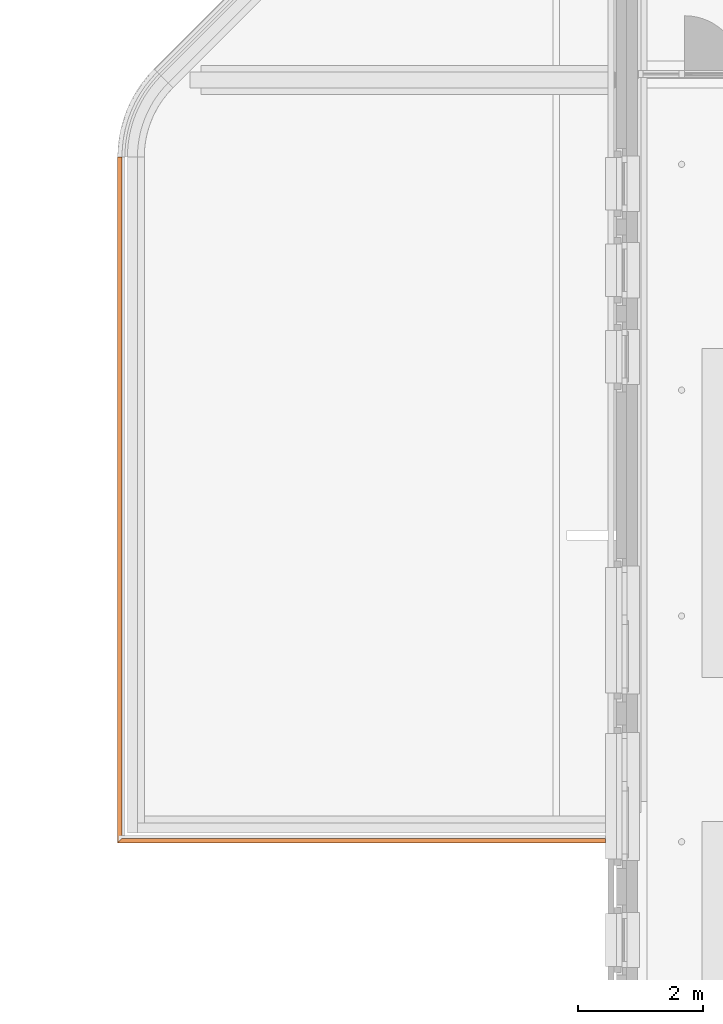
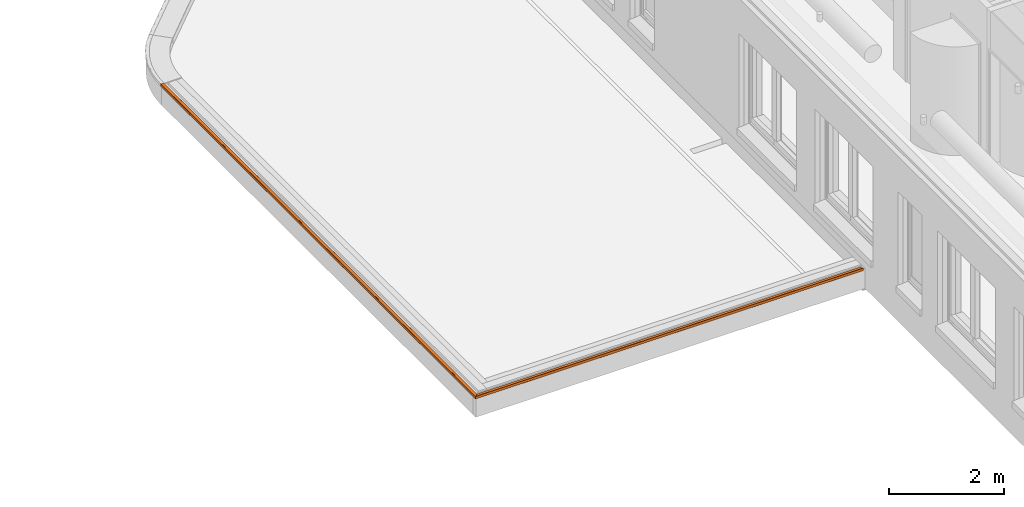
# One storey, part 126 of 128: 2 proxies.
"""IFC2X3 building model written with IfcOpenShell, lengths in millimetres."""

from ifc_helpers import new_model, entity, si_unit, converted_unit, derived_unit, direction, frame, origin, place, context, subcontext, project, spatial, faceted_brep, source, transform, mapped, material, type_object, type_shapes, element, save


model = new_model("IFC2X3")

# Units and contexts
model_context = context("Model", 3, precision=0.01, world=origin(), true_north=direction((6.123031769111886e-17, 1.0)))
body_context = subcontext(model_context, "Body", "Model", "MODEL_VIEW")
ifc_project = project(units=[si_unit("LENGTHUNIT", "METRE", prefix="MILLI"), si_unit("AREAUNIT", "SQUARE_METRE"), si_unit("VOLUMEUNIT", "CUBIC_METRE"), converted_unit("PLANEANGLEUNIT", "DEGREE", entity("IfcRatioMeasure", 0.017453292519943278), si_unit("PLANEANGLEUNIT", "RADIAN"), dimensions=[0, 0, 0, 0, 0, 0, 0]), si_unit("MASSUNIT", "GRAM", prefix="KILO"), derived_unit("MASSDENSITYUNIT", [(si_unit("MASSUNIT", "GRAM", prefix="KILO"), 1), (si_unit("LENGTHUNIT", "METRE"), -3)]), derived_unit("IONCONCENTRATIONUNIT", [(si_unit("MASSUNIT", "GRAM", prefix="KILO"), 1), (si_unit("LENGTHUNIT", "METRE"), -3)]), derived_unit("MOMENTOFINERTIAUNIT", [(si_unit("LENGTHUNIT", "METRE"), 4)]), si_unit("TIMEUNIT", "SECOND"), si_unit("FREQUENCYUNIT", "HERTZ"), si_unit("THERMODYNAMICTEMPERATUREUNIT", "DEGREE_CELSIUS"), derived_unit("THERMALTRANSMITTANCEUNIT", [(si_unit("MASSUNIT", "GRAM", prefix="KILO"), 1), (si_unit("THERMODYNAMICTEMPERATUREUNIT", "KELVIN"), -1), (si_unit("TIMEUNIT", "SECOND"), -3)]), derived_unit("THERMALCONDUCTANCEUNIT", [(si_unit("MASSUNIT", "GRAM", prefix="KILO"), 1), (si_unit("THERMODYNAMICTEMPERATUREUNIT", "KELVIN"), -1), (si_unit("TIMEUNIT", "SECOND"), -3), (si_unit("LENGTHUNIT", "METRE"), 1)]), derived_unit("VOLUMETRICFLOWRATEUNIT", [(si_unit("LENGTHUNIT", "METRE"), 3), (si_unit("TIMEUNIT", "SECOND"), -1)]), derived_unit("MASSFLOWRATEUNIT", [(si_unit("MASSUNIT", "GRAM", prefix="KILO"), 1), (si_unit("TIMEUNIT", "SECOND"), -1)]), derived_unit("ROTATIONALFREQUENCYUNIT", [(si_unit("TIMEUNIT", "SECOND"), -1)]), si_unit("ELECTRICCURRENTUNIT", "AMPERE"), si_unit("ELECTRICVOLTAGEUNIT", "VOLT"), si_unit("POWERUNIT", "WATT"), si_unit("FORCEUNIT", "NEWTON", prefix="KILO"), si_unit("ILLUMINANCEUNIT", "LUX"), si_unit("LUMINOUSFLUXUNIT", "LUMEN"), si_unit("LUMINOUSINTENSITYUNIT", "CANDELA"), derived_unit("USERDEFINED", [(si_unit("MASSUNIT", "GRAM", prefix="KILO"), -1), (si_unit("LENGTHUNIT", "METRE"), -2), (si_unit("TIMEUNIT", "SECOND"), 3), (si_unit("LUMINOUSFLUXUNIT", "LUMEN"), 1)]), derived_unit("USERDEFINED", [(si_unit("MASSUNIT", "GRAM", prefix="KILO"), 1), (si_unit("TIMEUNIT", "SECOND"), -3), (si_unit("LENGTHUNIT", "METRE"), 3), (si_unit("ELECTRICCURRENTUNIT", "AMPERE"), -2)]), derived_unit("SOUNDPOWERUNIT", [(si_unit("MASSUNIT", "GRAM", prefix="KILO"), 1), (si_unit("TIMEUNIT", "SECOND"), -3), (si_unit("LENGTHUNIT", "METRE"), 2)]), derived_unit("SOUNDPRESSUREUNIT", [(si_unit("MASSUNIT", "GRAM", prefix="KILO"), 1), (si_unit("LENGTHUNIT", "METRE"), -1), (si_unit("TIMEUNIT", "SECOND"), -2)]), derived_unit("LINEARVELOCITYUNIT", [(si_unit("LENGTHUNIT", "METRE"), 1), (si_unit("TIMEUNIT", "SECOND"), -1)]), si_unit("PRESSUREUNIT", "PASCAL"), derived_unit("USERDEFINED", [(si_unit("MASSUNIT", "GRAM", prefix="KILO"), 1), (si_unit("LENGTHUNIT", "METRE"), -2), (si_unit("TIMEUNIT", "SECOND"), -2)]), derived_unit("LINEARFORCEUNIT", [(si_unit("MASSUNIT", "GRAM", prefix="KILO"), 1), (si_unit("TIMEUNIT", "SECOND"), -2)]), derived_unit("PLANARFORCEUNIT", [(si_unit("MASSUNIT", "GRAM", prefix="KILO"), 1), (si_unit("LENGTHUNIT", "METRE"), -1), (si_unit("TIMEUNIT", "SECOND"), -2)]), derived_unit("SPECIFICHEATCAPACITYUNIT", [(si_unit("THERMODYNAMICTEMPERATUREUNIT", "KELVIN"), -1), (si_unit("LENGTHUNIT", "METRE"), 2), (si_unit("TIMEUNIT", "SECOND"), -2)]), derived_unit("HEATINGVALUEUNIT", [(si_unit("LENGTHUNIT", "METRE"), 2), (si_unit("TIMEUNIT", "SECOND"), -2)]), derived_unit("VAPORPERMEABILITYUNIT", [(si_unit("LENGTHUNIT", "METRE"), -1), (si_unit("TIMEUNIT", "SECOND"), 1)]), derived_unit("DYNAMICVISCOSITYUNIT", [(si_unit("MASSUNIT", "GRAM", prefix="KILO"), 1), (si_unit("TIMEUNIT", "SECOND"), -1), (si_unit("LENGTHUNIT", "METRE"), -1)]), derived_unit("THERMALEXPANSIONCOEFFICIENTUNIT", [(si_unit("THERMODYNAMICTEMPERATUREUNIT", "KELVIN"), -1)]), derived_unit("MODULUSOFELASTICITYUNIT", [(si_unit("MASSUNIT", "GRAM", prefix="KILO"), 1), (si_unit("LENGTHUNIT", "METRE"), -1), (si_unit("TIMEUNIT", "SECOND"), -2)]), derived_unit("ISOTHERMALMOISTURECAPACITYUNIT", [(si_unit("LENGTHUNIT", "METRE"), 3), (si_unit("MASSUNIT", "GRAM", prefix="KILO"), -1)]), derived_unit("MOISTUREDIFFUSIVITYUNIT", [(si_unit("TIMEUNIT", "SECOND"), -1), (si_unit("LENGTHUNIT", "METRE"), 2)])], contexts=[model_context])

# Site, building, storey
site_placement = place(None, frame((0.0, 300.0, 0.0)))
site = spatial("IfcSite", under=ifc_project, at=site_placement, Name="<Kadastrale nummers>", CompositionType="ELEMENT")
building_placement = place(site_placement, origin())
building = spatial("IfcBuilding", under=site, at=building_placement, CompositionType="ELEMENT")
storey_placement = place(building_placement, frame((0.0, 0.0, 3560.0000331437)))
storey = spatial("IfcBuildingStorey", under=building, at=storey_placement, Name="01 eerste verdieping", CompositionType="ELEMENT", Elevation=3560.0000331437)

# Proxies
ifc_material = material(Name="STAAL_RAL 7006")
building_element_proxy_type_1 = type_object("IfcBuildingElementProxyType", Name="NLRS_42_GM_WPB_dakrand_gen_ISR:dakrand_gen", PredefinedType="NOTDEFINED", material=ifc_material)
shared_shape_1 = source(origin(), body_context, "Body", "Brep", [
    faceted_brep([(3888.4815416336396, 1.0, 14.0), (3888.4815416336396, 0.29289321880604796, 13.707106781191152), (3888.4815416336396, 0.0, 13.0), (3888.4815416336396, 0.0, -39.696774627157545), (3888.4815416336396, 0.49999999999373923, -40.562800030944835), (3888.4815416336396, 1.2588190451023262, -40.66270045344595), (3888.4815416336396, 11.252085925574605, -37.98501266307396), (3888.4815416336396, 11.959192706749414, -36.76026779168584), (3888.4815416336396, 10.734447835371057, -36.05316101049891), (3888.4815416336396, 3.2588190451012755, -38.056249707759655), (3888.4815416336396, 2.292893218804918, -37.797430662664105), (3888.4815416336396, 2.0, -37.0903238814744), (3888.4815416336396, 2.0, -28.0), (3888.4815416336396, 2.292893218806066, -27.29289321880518), (3888.4815416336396, 3.0, -27.0), (3888.4815416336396, 6.0, -27.0), (3888.4815416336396, 6.707106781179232, -26.70710678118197), (3888.4815416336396, 7.0, -26.0), (3888.4815416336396, 7.0, -23.0), (3888.4815416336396, 6.0, -22.0), (3888.4815416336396, 5.0, -23.0), (3888.4815416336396, 5.0, -24.0), (3888.4815416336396, 4.7071067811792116, -24.707106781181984), (3888.4815416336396, 4.0, -25.0), (3888.4815416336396, 3.0, -25.0), (3888.4815416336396, 2.2928932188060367, -24.7071067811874), (3888.4815416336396, 2.0, -24.0), (3888.4815416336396, 2.0, -1.0), (3888.4815416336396, 2.292893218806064, -0.29289321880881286), (3888.4815416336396, 3.0, 0.0), (3888.4815416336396, 4.0, 0.0), (3888.4815416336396, 4.707106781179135, -0.2928932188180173), (3888.4815416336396, 5.0, -1.0), (3888.4815416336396, 5.0, -2.0), (3888.4815416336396, 6.0, -3.0), (3888.4815416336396, 7.0, -2.0), (3888.4815416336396, 7.0, -1.0), (3888.4815416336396, 7.292893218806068, -0.29289321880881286), (3888.4815416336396, 8.0, 0.0), (3888.4815416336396, 70.0, 0.0), (3888.4815416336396, 70.49999999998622, 0.4999999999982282), (3888.4815416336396, 70.0, 1.0), (3888.4815416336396, 65.49999999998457, 2.0), (3888.4815416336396, 3.0, 2.0), (3888.4815416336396, 2.2928932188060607, 2.2928932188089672), (3888.4815416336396, 2.0, 3.0), (3888.4815416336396, 2.0, 11.0), (3888.4815416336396, 2.292893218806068, 11.707106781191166), (3888.4815416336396, 3.0, 12.0), (3888.4815416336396, 11.0, 12.0), (3888.4815416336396, 12.0, 13.0), (3888.4815416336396, 11.0, 14.0), (-3886.2633731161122, 2.2181685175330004, 2.376510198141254), (-3886.4815416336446, 2.0, 3.0), (-3885.4815416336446, 3.0, 2.0), (-3886.1050314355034, 2.3765101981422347, 11.781831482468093), (-3885.4815416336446, 3.0, 12.0), (-3886.481541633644, 2.0, 11.0), (-3877.4815416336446, 11.0, 14.0), (-3876.481541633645, 12.0, 13.0), (-3877.481541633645, 11.0, 12.0), (-3888.4815416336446, 0.0, 13.0), (-3888.2633731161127, 0.21816851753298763, 13.62348980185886), (-3887.4815416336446, 1.0, 14.0), (-3887.222722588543, 1.2588190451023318, -40.662700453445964), (-3888.00651821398, 0.47502341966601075, -40.54789129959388), (-3888.4815416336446, 0.0, -39.69677462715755), (-3877.7470937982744, 10.734447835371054, -36.05316101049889), (-3876.5223489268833, 11.959192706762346, -36.760267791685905), (-3877.2294557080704, 11.252085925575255, -37.985012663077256), (-3886.4815416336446, 2.0, -37.090323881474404), (-3886.167783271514, 2.3137583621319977, -37.81769752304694), (-3885.222722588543, 3.258819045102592, -38.056249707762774), (-3886.1050314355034, 2.376510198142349, -27.21816851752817), (-3885.4815416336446, 3.0, -27.0), (-3886.4815416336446, 2.0, -28.0), (-3822.9815416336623, 65.49999999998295, 2.0), (-3818.4815416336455, 70.0, 1.0), (-3817.9815416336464, 70.49999999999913, 0.49999999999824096), (-3818.4815416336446, 70.0, 0.0), (-3880.4815416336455, 8.0, 0.0), (-3885.481541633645, 3.0, 0.0), (-3884.4815416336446, 4.0, 0.0), (-3881.1050314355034, 7.376510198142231, -0.21816851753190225), (-3881.481541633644, 7.0, -1.0), (-3881.481541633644, 7.0, -2.0), (-3881.481541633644, 7.0, -26.0), (-3881.4815416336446, 7.0, -23.0), (-3882.377013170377, 6.1045284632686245, -2.994521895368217), (-3883.481541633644, 5.0, -2.0), (-3883.481541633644, 5.0, -1.0), (-3883.481541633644, 5.0, -23.0), (-3883.481541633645, 5.0, -24.0), (-3883.6997101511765, 4.781831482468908, -0.3765101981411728), (-3886.105031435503, 2.3765101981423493, -0.21816851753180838), (-3886.481541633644, 2.0, -1.0), (-3886.4815416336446, 2.0, -24.0), (-3886.2633731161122, 2.218168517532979, -24.623489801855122), (-3885.4815416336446, 3.0, -25.0), (-3884.4815416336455, 4.0, -25.0), (-3883.8580518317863, 4.623489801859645, -24.781831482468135), (-3882.5860700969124, 5.895471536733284, -22.00547810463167), (-3881.6997101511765, 6.781831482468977, -26.62348980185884), (-3882.4815416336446, 6.0, -27.0)], [[[0, 1, 2, 3, 4, 5, 6, 7, 8, 9, 10, 11, 12, 13, 14, 15, 16, 17, 18, 19, 20, 21, 22, 23, 24, 25, 26, 27, 28, 29, 30, 31, 32, 33, 34, 35, 36, 37, 38, 39, 40, 41, 42, 43, 44, 45, 46, 47, 48, 49, 50, 51]], [[45, 52, 53]], [[44, 52, 45]], [[43, 54, 44]], [[52, 44, 54]], [[48, 55, 56]], [[47, 55, 48]], [[46, 57, 47]], [[55, 47, 57]], [[58, 51, 50, 59]], [[49, 60, 59, 50]], [[61, 2, 62]], [[62, 2, 1]], [[1, 0, 63]], [[1, 63, 62]], [[64, 5, 4]], [[64, 4, 65]], [[65, 3, 66]], [[3, 65, 4]], [[67, 8, 7, 68]], [[6, 69, 68, 7]], [[11, 10, 70]], [[71, 70, 10]], [[9, 72, 71]], [[10, 9, 71]], [[14, 73, 74]], [[13, 73, 14]], [[12, 75, 13]], [[73, 13, 75]], [[76, 54, 43, 42]], [[77, 76, 42, 41]], [[77, 41, 40, 78]], [[39, 79, 78, 40]], [[80, 79, 39, 38]], [[81, 82, 30, 29]], [[38, 83, 80]], [[37, 83, 38]], [[36, 84, 37]], [[83, 37, 84]], [[85, 84, 36, 35]], [[86, 87, 18, 17]], [[85, 35, 88]], [[88, 35, 34]], [[34, 33, 89]], [[34, 89, 88]], [[90, 89, 33, 32]], [[91, 92, 21, 20]], [[32, 93, 90]], [[31, 93, 32]], [[30, 82, 31]], [[93, 31, 82]], [[29, 94, 81]], [[28, 94, 29]], [[27, 95, 28]], [[94, 28, 95]], [[96, 95, 27, 26]], [[70, 75, 12, 11]], [[53, 57, 46, 45]], [[26, 97, 96]], [[25, 97, 26]], [[24, 98, 25]], [[97, 25, 98]], [[99, 98, 24, 23]], [[23, 100, 99]], [[22, 100, 23]], [[21, 92, 22]], [[100, 22, 92]], [[91, 20, 101]], [[101, 20, 19]], [[19, 18, 87]], [[19, 87, 101]], [[86, 17, 102]], [[102, 17, 16]], [[16, 15, 103]], [[16, 103, 102]], [[74, 103, 15, 14]], [[67, 72, 9, 8]], [[64, 69, 6, 5]], [[61, 66, 3, 2]], [[58, 63, 0, 51]], [[56, 60, 49, 48]], [[61, 62, 63, 58, 59, 60, 56, 55, 57, 53, 52, 54, 76, 77, 78, 79, 80, 83, 84, 85, 88, 89, 90, 93, 82, 81, 94, 95, 96, 97, 98, 99, 100, 92, 91, 101, 87, 86, 102, 103, 74, 73, 75, 70, 71, 72, 67, 68, 69, 64, 65, 66]]]),
])
type_shapes(building_element_proxy_type_1, [shared_shape_1])
proxy_1_placement = place(storey_placement, frame((32296.518458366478, 18737.99862327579, 532.9999668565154)))
element("IfcBuildingElementProxy", 1, at=proxy_1_placement, inside=storey, type_object=building_element_proxy_type_1, material=ifc_material, Name="NLRS_42_GM_WPB_dakrand_gen_ISR:dakrand_gen", ObjectType="NLRS_42_GM_WPB_dakrand_gen_ISR:dakrand_gen", context=body_context, shape_type="MappedRepresentation", body=[
    mapped(shared_shape_1, transform((0.0, 0.0, 0.0), scale=1.0)),
])
building_element_proxy_type_2 = type_object("IfcBuildingElementProxyType", Name="NLRS_42_GM_WPB_dakrand_gen_ISR:dakrand_gen", PredefinedType="NOTDEFINED", material=ifc_material)
shared_shape_2 = source(origin(), body_context, "Body", "Brep", [
    faceted_brep([(5464.631929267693, 1.0, 14.0), (5465.41376075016, 0.21816851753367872, 13.623489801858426), (5465.631929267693, 0.0, 13.0), (5465.631929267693, 0.0, -39.696774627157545), (5465.156905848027, 0.4750234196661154, -40.5478912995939), (5464.37311022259, 1.25881904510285, -40.662700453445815), (5454.379843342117, 11.252085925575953, -37.98501266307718), (5453.67273656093, 11.95919270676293, -36.76026779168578), (5454.897481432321, 10.734447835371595, -36.053161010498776), (5462.37311022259, 3.2588190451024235, -38.05624970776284), (5463.318170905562, 2.3137583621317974, -37.81769752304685), (5463.631929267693, 2.0, -37.0903238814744), (5463.631929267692, 2.0, -28.0), (5463.255419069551, 2.3765101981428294, -27.21816851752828), (5462.631929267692, 3.0, -27.0), (5459.631929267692, 6.0, -27.0), (5458.850097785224, 6.781831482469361, -26.623489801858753), (5458.631929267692, 7.0, -26.0), (5458.631929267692, 7.0, -23.0), (5459.736457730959, 5.895471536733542, -22.005478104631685), (5460.631929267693, 5.0, -23.0), (5460.631929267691, 5.0, -24.0), (5461.008439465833, 4.62348980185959, -24.781831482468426), (5461.6319292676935, 4.0, -25.0), (5462.631929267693, 3.0, -25.0), (5463.41376075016, 2.2181685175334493, -24.623489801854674), (5463.631929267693, 2.0, -24.0), (5463.631929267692, 2.0, -1.0), (5463.255419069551, 2.3765101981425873, -0.21816851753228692), (5462.631929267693, 3.0, 0.0), (5461.6319292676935, 4.0, 0.0), (5460.850097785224, 4.781831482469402, -0.37651019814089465), (5460.631929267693, 5.0, -1.0), (5460.631929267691, 5.0, -2.0), (5459.527400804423, 6.10452846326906, -2.9945218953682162), (5458.631929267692, 7.0, -2.0), (5458.631929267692, 7.0, -1.0), (5458.255419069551, 7.376510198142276, -0.21816851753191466), (5457.631929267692, 8.0, 0.0), (5395.631929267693, 70.0, 0.0), (5395.131929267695, 70.49999999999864, 0.4999999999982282), (5395.631929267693, 70.0, 1.0), (5400.131929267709, 65.49999999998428, 2.0), (5462.631929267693, 3.0, 2.0), (5463.41376075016, 2.218168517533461, 2.376510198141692), (5463.631929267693, 2.0, 3.0), (5463.631929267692, 2.0, 11.0), (5463.255419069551, 2.376510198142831, 11.781831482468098), (5462.631929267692, 3.0, 12.0), (5454.631929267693, 11.0, 12.0), (5453.631929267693, 12.0, 13.0), (5454.631929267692, 11.0, 14.0), (-5465.631929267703, 2.0, 3.0), (-5465.631929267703, 2.292893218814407, 2.2928932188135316), (-5465.631929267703, 3.0, 2.0), (-5465.631929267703, 3.0, 12.0), (-5465.631929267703, 2.2928932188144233, 11.707106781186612), (-5465.631929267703, 2.0, 11.0), (-5465.631929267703, 12.0, 13.0), (-5465.631929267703, 11.0, 14.0), (-5465.631929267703, 11.0, 12.0), (-5465.631929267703, 0.0, 13.0), (-5465.631929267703, 0.29289321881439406, 13.707106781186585), (-5465.631929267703, 1.0, 14.0), (-5465.631929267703, 1.258819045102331, -40.662700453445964), (-5465.631929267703, 0.5000000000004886, -40.56280003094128), (-5465.631929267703, 0.0, -39.69677462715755), (-5465.631929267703, 11.959192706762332, -36.76026779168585), (-5465.631929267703, 10.734447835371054, -36.05316101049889), (-5465.631929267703, 11.252085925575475, -37.98501266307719), (-5465.631929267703, 2.2928932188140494, -37.797430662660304), (-5465.631929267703, 2.0, -37.090323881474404), (-5465.631929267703, 3.2588190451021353, -38.0562497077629), (-5465.631929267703, 3.0, -27.0), (-5465.631929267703, 2.292893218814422, -27.292893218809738), (-5465.631929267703, 2.0, -28.0), (-5465.631929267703, 65.49999999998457, 2.0), (-5465.631929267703, 70.0, 1.0), (-5465.631929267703, 70.49999999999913, 0.4999999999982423), (-5465.631929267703, 70.0, 0.0), (-5465.631929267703, 8.0, 0.0), (-5465.631929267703, 3.0, 0.0), (-5465.631929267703, 4.0, 0.0), (-5465.631929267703, 7.292893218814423, -0.2928932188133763), (-5465.631929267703, 7.0, -1.0), (-5465.631929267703, 7.0, -2.0), (-5465.631929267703, 7.0, -26.0), (-5465.631929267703, 7.0, -23.0), (-5465.631929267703, 6.0, -3.0), (-5465.631929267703, 5.0, -2.0), (-5465.631929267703, 5.0, -1.0), (-5465.631929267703, 5.0, -23.0), (-5465.631929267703, 5.0, -24.0), (-5465.631929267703, 4.707106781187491, -0.2928932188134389), (-5465.631929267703, 2.2928932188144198, -0.29289321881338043), (-5465.631929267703, 2.0, -1.0), (-5465.631929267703, 2.0, -24.0), (-5465.631929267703, 2.2928932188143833, -24.707106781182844), (-5465.631929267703, 3.0, -25.0), (-5465.631929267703, 4.0, -25.0), (-5465.631929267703, 4.7071067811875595, -24.707106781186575), (-5465.631929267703, 6.0, -22.0), (-5465.631929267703, 6.707106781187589, -26.707106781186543), (-5465.631929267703, 6.0, -27.0)], [[[0, 1, 2, 3, 4, 5, 6, 7, 8, 9, 10, 11, 12, 13, 14, 15, 16, 17, 18, 19, 20, 21, 22, 23, 24, 25, 26, 27, 28, 29, 30, 31, 32, 33, 34, 35, 36, 37, 38, 39, 40, 41, 42, 43, 44, 45, 46, 47, 48, 49, 50, 51]], [[45, 44, 52]], [[53, 52, 44]], [[43, 54, 53]], [[44, 43, 53]], [[48, 47, 55]], [[56, 55, 47]], [[46, 57, 56]], [[47, 46, 56]], [[58, 59, 51, 50]], [[50, 49, 60, 58]], [[61, 2, 1]], [[61, 1, 62]], [[62, 0, 63]], [[0, 62, 1]], [[64, 5, 65]], [[65, 5, 4]], [[4, 3, 66]], [[4, 66, 65]], [[67, 68, 8, 7]], [[7, 6, 69, 67]], [[11, 70, 71]], [[10, 70, 11]], [[9, 72, 10]], [[70, 10, 72]], [[14, 13, 73]], [[74, 73, 13]], [[12, 75, 74]], [[13, 12, 74]], [[76, 54, 43, 42]], [[77, 76, 42, 41]], [[78, 77, 41, 40]], [[40, 39, 79, 78]], [[80, 79, 39, 38]], [[81, 82, 30, 29]], [[38, 37, 80]], [[83, 80, 37]], [[36, 84, 83]], [[37, 36, 83]], [[85, 84, 36, 35]], [[86, 87, 18, 17]], [[85, 35, 34]], [[85, 34, 88]], [[88, 33, 89]], [[33, 88, 34]], [[90, 89, 33, 32]], [[91, 92, 21, 20]], [[32, 31, 90]], [[93, 90, 31]], [[30, 82, 93]], [[31, 30, 93]], [[29, 28, 81]], [[94, 81, 28]], [[27, 95, 94]], [[28, 27, 94]], [[96, 95, 27, 26]], [[71, 75, 12, 11]], [[52, 57, 46, 45]], [[26, 25, 96]], [[97, 96, 25]], [[24, 98, 97]], [[25, 24, 97]], [[99, 98, 24, 23]], [[23, 22, 99]], [[100, 99, 22]], [[21, 92, 100]], [[22, 21, 100]], [[91, 20, 19]], [[91, 19, 101]], [[101, 18, 87]], [[18, 101, 19]], [[86, 17, 16]], [[86, 16, 102]], [[102, 15, 103]], [[15, 102, 16]], [[73, 103, 15, 14]], [[68, 72, 9, 8]], [[64, 69, 6, 5]], [[61, 66, 3, 2]], [[59, 63, 0, 51]], [[55, 60, 49, 48]], [[61, 62, 63, 59, 58, 60, 55, 56, 57, 52, 53, 54, 76, 77, 78, 79, 80, 83, 84, 85, 88, 89, 90, 93, 82, 81, 94, 95, 96, 97, 98, 99, 100, 92, 91, 101, 87, 86, 102, 103, 73, 74, 75, 71, 70, 72, 68, 67, 69, 64, 65, 66]]]),
])
type_shapes(building_element_proxy_type_2, [shared_shape_2])
proxy_2_placement = place(storey_placement, frame((28408.036916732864, 24203.630552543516, 532.9999668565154), z_axis=(0.0, 0.0, 1.0), x_axis=(0.0, -1.0, 0.0)))
element("IfcBuildingElementProxy", 2, at=proxy_2_placement, inside=storey, type_object=building_element_proxy_type_2, material=ifc_material, Name="NLRS_42_GM_WPB_dakrand_gen_ISR:dakrand_gen", ObjectType="NLRS_42_GM_WPB_dakrand_gen_ISR:dakrand_gen", context=body_context, shape_type="MappedRepresentation", body=[
    mapped(shared_shape_2, transform((0.0, 0.0, 0.0), scale=1.0)),
])

save(model, "model.ifc")
